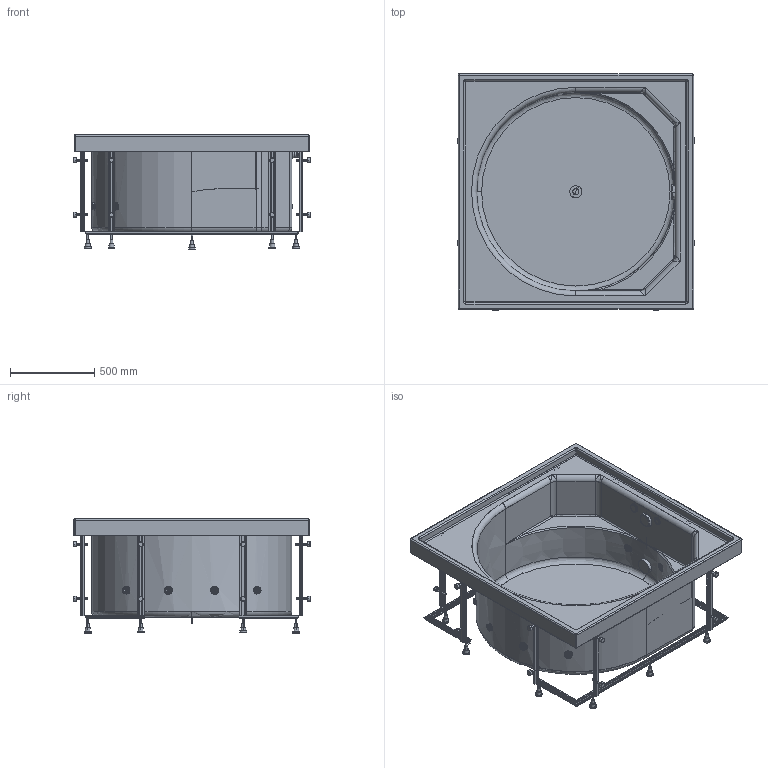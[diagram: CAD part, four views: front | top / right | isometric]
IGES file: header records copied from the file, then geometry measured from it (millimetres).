
Global section: file name: No Iges File Name specified; native system: Autodesk Inventor 2011; preprocessor: AutoDesk Inventor Iges Exporter R2011; author: Administrator; date: 20151219.220627; units: millimetre
Bounding box: 1409.36 x 1409.45 x 680 mm (x, y, z)
Volume: 54119902.6 mm3; surface area: 10906573.4 mm2
Topology: 66 solids, 68 shells, 1504 faces, 3716 edges, 2419 vertices
Faces by surface type: plane 610, revolution 317, cylinder 279, torus 156, cone 74, bspline 46, sphere 22
